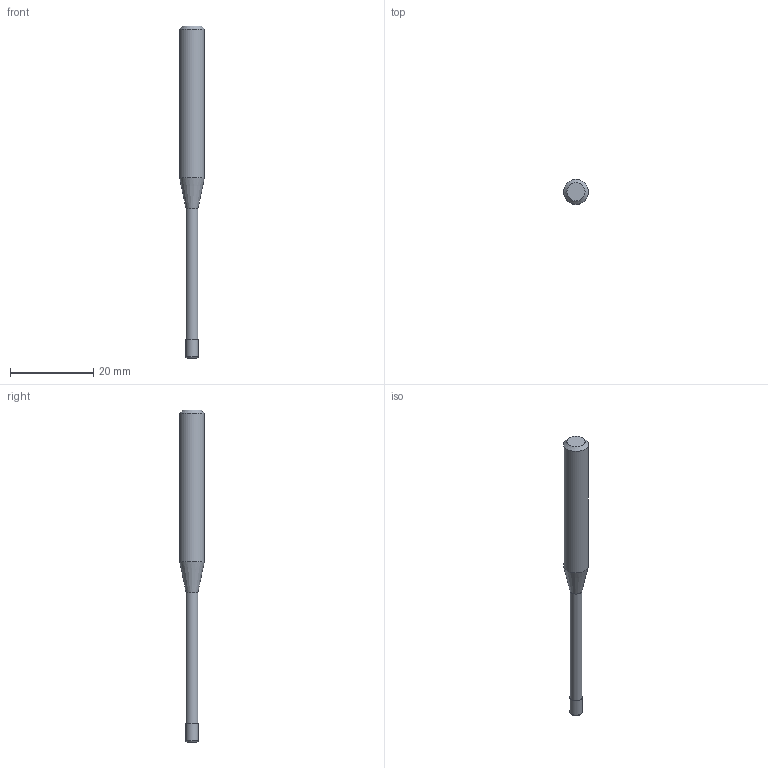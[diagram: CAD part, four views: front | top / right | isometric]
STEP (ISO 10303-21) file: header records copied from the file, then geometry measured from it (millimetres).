
FILE_DESCRIPTION((''),'2;1');
FILE_NAME('C:\Users\nsx150\AppData\Local\Temp\Mastercam 2021\17T8Q8S9EB\TEMP.step','2021-04-21T14:39:23',(''),(''),'STEP Write','Mastercam 2021 ... CNC Software, Inc.','');
FILE_SCHEMA(('AUTOMOTIVE_DESIGN'));
Length unit declared in the file: millimetre
Products named in the file (1): None
Bounding box: 6 x 6 x 80 mm (x, y, z)
Volume: 1380.4 mm3; surface area: 1157.3 mm2
Topology: 2 solids, 2 shells, 10 faces, 14 edges, 8 vertices
Faces by surface type: plane 4, cylinder 3, cone 2, torus 1
Full cylindrical faces by diameter (mm): 2.85 x1, 3 x1, 6 x1
Entity records: 232 total; most frequent: DIRECTION 40, CARTESIAN_POINT 28, AXIS2_PLACEMENT_3D 20, ORIENTED_EDGE 16, EDGE_LOOP 16, STYLED_ITEM 13, ADVANCED_FACE 10, FACE_BOUND 10
